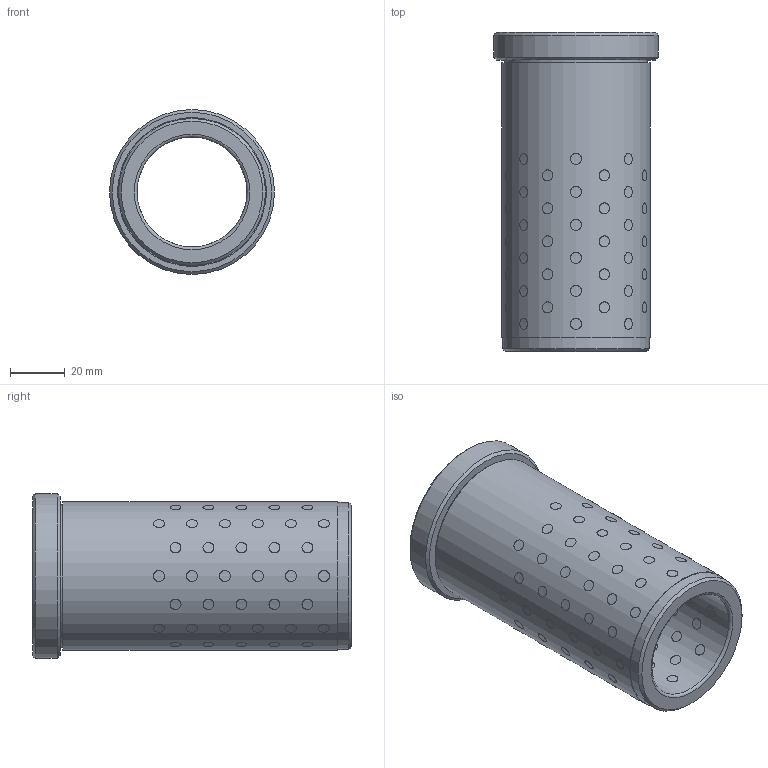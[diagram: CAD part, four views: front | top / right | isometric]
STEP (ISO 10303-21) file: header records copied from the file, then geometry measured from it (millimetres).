
FILE_DESCRIPTION( ( 'STEP AP203' ), '1' );
FILE_NAME( 'D:/Cuma/D30.05/D30.05_40116.step', '2003-01-20T18:21:53', ( ' ' ), ( ' ' ), 'XStep 1.0', ' ', ' ' );
FILE_SCHEMA( ( 'CONFIG_CONTROL_DESIGN' ) );
Length unit declared in the file: metre
Products named in the file (105): 1; 2; 3; 4; 5; 6; 7; 8; 9; 10; 11; 12; 13; 14; 15; 16; 17; 18; 19; 20; 21; 22; 23; 24; 25; 26; 27; 28; 29; 30; 31; 32; 33; 34; 35; 36; 37; 38; 39; 40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
Bounding box: 60 x 116 x 60 mm (x, y, z)
Volume: 133499.4 mm3; surface area: 49151.9 mm2
Topology: 105 solids, 105 shells, 327 faces, 337 edges, 223 vertices
Faces by surface type: cylinder 317, plane 5, cone 3, torus 2
Full cylindrical faces by diameter (mm): 4 x104, 40 x1, 52 x1, 53.5 x1, 54 x1, 60 x1
Entity records: 20737 total; most frequent: CARTESIAN_POINT 12110, DIRECTION 894, CC_DESIGN_PERSON_AND_ORGANIZATION_ASSIGNMENT 525, AXIS2_PLACEMENT_3D 447, EDGE_LOOP 446, ORIENTED_EDGE 446, FACE_OUTER_BOUND 438, PERSON_AND_ORGANIZATION_ROLE 420
